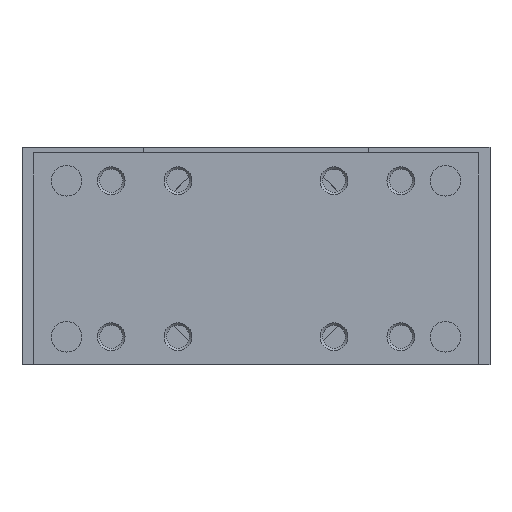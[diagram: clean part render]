
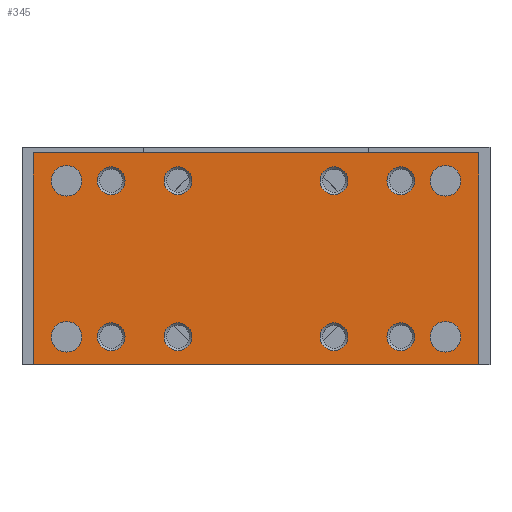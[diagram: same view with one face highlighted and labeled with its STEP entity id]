
A CAD part, left-side view. The second image highlights one B-rep face of the part: STEP entity #345.
In plain terms, the highlighted planar face has unit normal (-1, 0, 0).
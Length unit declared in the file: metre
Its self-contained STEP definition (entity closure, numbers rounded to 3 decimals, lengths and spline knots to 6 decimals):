
#345 = ADVANCED_FACE( '', ( #863, #864, #865, #866, #867, #868, #869, #870, #871, #872, #873, #874, #875 ), #876, .T. );
#863 = FACE_BOUND( '', #1609, .T. );
#864 = FACE_BOUND( '', #1610, .T. );
#865 = FACE_BOUND( '', #1611, .T. );
#866 = FACE_BOUND( '', #1612, .T. );
#867 = FACE_BOUND( '', #1613, .T. );
#868 = FACE_BOUND( '', #1614, .T. );
#869 = FACE_BOUND( '', #1615, .T. );
#870 = FACE_BOUND( '', #1616, .T. );
#871 = FACE_BOUND( '', #1617, .T. );
#872 = FACE_BOUND( '', #1618, .T. );
#873 = FACE_BOUND( '', #1619, .T. );
#874 = FACE_BOUND( '', #1620, .T. );
#875 = FACE_OUTER_BOUND( '', #1621, .T. );
#876 = PLANE( '', #1622 );
#1609 = EDGE_LOOP( '', ( #2551 ) );
#1610 = EDGE_LOOP( '', ( #2552 ) );
#1611 = EDGE_LOOP( '', ( #2553 ) );
#1612 = EDGE_LOOP( '', ( #2554 ) );
#1613 = EDGE_LOOP( '', ( #2555 ) );
#1614 = EDGE_LOOP( '', ( #2556 ) );
#1615 = EDGE_LOOP( '', ( #2557 ) );
#1616 = EDGE_LOOP( '', ( #2558 ) );
#1617 = EDGE_LOOP( '', ( #2559 ) );
#1618 = EDGE_LOOP( '', ( #2560 ) );
#1619 = EDGE_LOOP( '', ( #2561 ) );
#1620 = EDGE_LOOP( '', ( #2562 ) );
#1621 = EDGE_LOOP( '', ( #2563, #2564, #2565, #2566 ) );
#1622 = AXIS2_PLACEMENT_3D( '', #2567, #2568, #2569 );
#2551 = ORIENTED_EDGE( '', *, *, #3588, .F. );
#2552 = ORIENTED_EDGE( '', *, *, #3589, .F. );
#2553 = ORIENTED_EDGE( '', *, *, #3590, .F. );
#2554 = ORIENTED_EDGE( '', *, *, #3591, .F. );
#2555 = ORIENTED_EDGE( '', *, *, #3592, .T. );
#2556 = ORIENTED_EDGE( '', *, *, #3355, .F. );
#2557 = ORIENTED_EDGE( '', *, *, #3593, .F. );
#2558 = ORIENTED_EDGE( '', *, *, #3594, .T. );
#2559 = ORIENTED_EDGE( '', *, *, #3595, .T. );
#2560 = ORIENTED_EDGE( '', *, *, #3551, .F. );
#2561 = ORIENTED_EDGE( '', *, *, #3596, .F. );
#2562 = ORIENTED_EDGE( '', *, *, #3370, .T. );
#2563 = ORIENTED_EDGE( '', *, *, #3597, .T. );
#2564 = ORIENTED_EDGE( '', *, *, #3598, .T. );
#2565 = ORIENTED_EDGE( '', *, *, #3599, .T. );
#2566 = ORIENTED_EDGE( '', *, *, #3555, .T. );
#2567 = CARTESIAN_POINT( '', ( -0.069, -0.04, -0.000567 ) );
#2568 = DIRECTION( '', ( -1., 0., 0. ) );
#2569 = DIRECTION( '', ( 0., 0., 1. ) );
#3355 = EDGE_CURVE( '', #3821, #3821, #3822, .T. );
#3370 = EDGE_CURVE( '', #3844, #3844, #3845, .T. );
#3551 = EDGE_CURVE( '', #4136, #4136, #4137, .T. );
#3555 = EDGE_CURVE( '', #4143, #4141, #4144, .T. );
#3588 = EDGE_CURVE( '', #4193, #4193, #4194, .T. );
#3589 = EDGE_CURVE( '', #4195, #4195, #4196, .T. );
#3590 = EDGE_CURVE( '', #4197, #4197, #4198, .T. );
#3591 = EDGE_CURVE( '', #4199, #4199, #4200, .T. );
#3592 = EDGE_CURVE( '', #4201, #4201, #4202, .T. );
#3593 = EDGE_CURVE( '', #4203, #4203, #4204, .T. );
#3594 = EDGE_CURVE( '', #4205, #4205, #4206, .T. );
#3595 = EDGE_CURVE( '', #4207, #4207, #4208, .T. );
#3596 = EDGE_CURVE( '', #4209, #4209, #4210, .T. );
#3597 = EDGE_CURVE( '', #4141, #4211, #4212, .T. );
#3598 = EDGE_CURVE( '', #4211, #4213, #4214, .T. );
#3599 = EDGE_CURVE( '', #4213, #4143, #4215, .T. );
#3821 = VERTEX_POINT( '', #4505 );
#3822 = CIRCLE( '', #4506, 0.0025 );
#3844 = VERTEX_POINT( '', #4528 );
#3845 = CIRCLE( '', #4529, 0.0025 );
#4136 = VERTEX_POINT( '', #5236 );
#4137 = CIRCLE( '', #5237, 0.0025 );
#4141 = VERTEX_POINT( '', #5242 );
#4143 = VERTEX_POINT( '', #5245 );
#4144 = LINE( '', #5246, #5247 );
#4193 = VERTEX_POINT( '', #5340 );
#4194 = CIRCLE( '', #5341, 0.00275 );
#4195 = VERTEX_POINT( '', #5342 );
#4196 = CIRCLE( '', #5343, 0.00275 );
#4197 = VERTEX_POINT( '', #5344 );
#4198 = CIRCLE( '', #5345, 0.00275 );
#4199 = VERTEX_POINT( '', #5346 );
#4200 = CIRCLE( '', #5347, 0.00275 );
#4201 = VERTEX_POINT( '', #5348 );
#4202 = CIRCLE( '', #5349, 0.0025 );
#4203 = VERTEX_POINT( '', #5350 );
#4204 = CIRCLE( '', #5351, 0.0025 );
#4205 = VERTEX_POINT( '', #5352 );
#4206 = CIRCLE( '', #5353, 0.0025 );
#4207 = VERTEX_POINT( '', #5354 );
#4208 = CIRCLE( '', #5355, 0.0025 );
#4209 = VERTEX_POINT( '', #5356 );
#4210 = CIRCLE( '', #5357, 0.0025 );
#4211 = VERTEX_POINT( '', #5358 );
#4212 = LINE( '', #5359, #5360 );
#4213 = VERTEX_POINT( '', #5361 );
#4214 = LINE( '', #5362, #5363 );
#4215 = LINE( '', #5364, #5365 );
#4505 = CARTESIAN_POINT( '', ( -0.069, 0.0285, -0.033567 ) );
#4506 = AXIS2_PLACEMENT_3D( '', #6105, #6106, #6107 );
#4528 = CARTESIAN_POINT( '', ( -0.069, 0.0165, -0.005567 ) );
#4529 = AXIS2_PLACEMENT_3D( '', #6132, #6133, #6134 );
#5236 = CARTESIAN_POINT( '', ( -0.069, 0.0165, -0.033567 ) );
#5237 = AXIS2_PLACEMENT_3D( '', #6401, #6402, #6403 );
#5242 = CARTESIAN_POINT( '', ( -0.069, -0.04, -0.038567 ) );
#5245 = CARTESIAN_POINT( '', ( -0.069, 0.04, -0.038567 ) );
#5246 = CARTESIAN_POINT( '', ( -0.069, 0.04, -0.038567 ) );
#5247 = VECTOR( '', #6406, 1. );
#5340 = CARTESIAN_POINT( '', ( -0.069, -0.034, -0.030817 ) );
#5341 = AXIS2_PLACEMENT_3D( '', #6448, #6449, #6450 );
#5342 = CARTESIAN_POINT( '', ( -0.069, 0.034, -0.030817 ) );
#5343 = AXIS2_PLACEMENT_3D( '', #6451, #6452, #6453 );
#5344 = CARTESIAN_POINT( '', ( -0.069, -0.034, -0.002817 ) );
#5345 = AXIS2_PLACEMENT_3D( '', #6454, #6455, #6456 );
#5346 = CARTESIAN_POINT( '', ( -0.069, 0.034, -0.002817 ) );
#5347 = AXIS2_PLACEMENT_3D( '', #6457, #6458, #6459 );
#5348 = CARTESIAN_POINT( '', ( -0.069, -0.0285, -0.033567 ) );
#5349 = AXIS2_PLACEMENT_3D( '', #6460, #6461, #6462 );
#5350 = CARTESIAN_POINT( '', ( -0.069, -0.0285, -0.005567 ) );
#5351 = AXIS2_PLACEMENT_3D( '', #6463, #6464, #6465 );
#5352 = CARTESIAN_POINT( '', ( -0.069, 0.0285, -0.005567 ) );
#5353 = AXIS2_PLACEMENT_3D( '', #6466, #6467, #6468 );
#5354 = CARTESIAN_POINT( '', ( -0.069, -0.0165, -0.033567 ) );
#5355 = AXIS2_PLACEMENT_3D( '', #6469, #6470, #6471 );
#5356 = CARTESIAN_POINT( '', ( -0.069, -0.0165, -0.005567 ) );
#5357 = AXIS2_PLACEMENT_3D( '', #6472, #6473, #6474 );
#5358 = CARTESIAN_POINT( '', ( -0.069, -0.04, -0.000567 ) );
#5359 = CARTESIAN_POINT( '', ( -0.069, -0.04, -0.038567 ) );
#5360 = VECTOR( '', #6475, 1. );
#5361 = CARTESIAN_POINT( '', ( -0.069, 0.04, -0.000567 ) );
#5362 = CARTESIAN_POINT( '', ( -0.069, -0.04, -0.000567 ) );
#5363 = VECTOR( '', #6476, 1. );
#5364 = CARTESIAN_POINT( '', ( -0.069, 0.04, -0.000567 ) );
#5365 = VECTOR( '', #6477, 1. );
#6105 = CARTESIAN_POINT( '', ( -0.069, 0.026, -0.033567 ) );
#6106 = DIRECTION( '', ( -1., 0., 0. ) );
#6107 = DIRECTION( '', ( 0., 1., 0. ) );
#6132 = CARTESIAN_POINT( '', ( -0.069, 0.014, -0.005567 ) );
#6133 = DIRECTION( '', ( 1., 0., 0. ) );
#6134 = DIRECTION( '', ( 0., 1., 0. ) );
#6401 = CARTESIAN_POINT( '', ( -0.069, 0.014, -0.033567 ) );
#6402 = DIRECTION( '', ( -1., 0., 0. ) );
#6403 = DIRECTION( '', ( 0., 1., 0. ) );
#6406 = DIRECTION( '', ( 0., -1., 0. ) );
#6448 = CARTESIAN_POINT( '', ( -0.069, -0.034, -0.033567 ) );
#6449 = DIRECTION( '', ( -1., 0., 0. ) );
#6450 = DIRECTION( '', ( 0., 0., 1. ) );
#6451 = CARTESIAN_POINT( '', ( -0.069, 0.034, -0.033567 ) );
#6452 = DIRECTION( '', ( -1., 0., 0. ) );
#6453 = DIRECTION( '', ( 0., 0., 1. ) );
#6454 = CARTESIAN_POINT( '', ( -0.069, -0.034, -0.005567 ) );
#6455 = DIRECTION( '', ( -1., 0., 0. ) );
#6456 = DIRECTION( '', ( 0., 0., 1. ) );
#6457 = CARTESIAN_POINT( '', ( -0.069, 0.034, -0.005567 ) );
#6458 = DIRECTION( '', ( -1., 0., 0. ) );
#6459 = DIRECTION( '', ( 0., 0., 1. ) );
#6460 = CARTESIAN_POINT( '', ( -0.069, -0.026, -0.033567 ) );
#6461 = DIRECTION( '', ( 1., 0., 0. ) );
#6462 = DIRECTION( '', ( 0., -1., 0. ) );
#6463 = CARTESIAN_POINT( '', ( -0.069, -0.026, -0.005567 ) );
#6464 = DIRECTION( '', ( -1., 0., 0. ) );
#6465 = DIRECTION( '', ( 0., -1., 0. ) );
#6466 = CARTESIAN_POINT( '', ( -0.069, 0.026, -0.005567 ) );
#6467 = DIRECTION( '', ( 1., 0., 0. ) );
#6468 = DIRECTION( '', ( 0., 1., 0. ) );
#6469 = CARTESIAN_POINT( '', ( -0.069, -0.014, -0.033567 ) );
#6470 = DIRECTION( '', ( 1., 0., 0. ) );
#6471 = DIRECTION( '', ( 0., -1., 0. ) );
#6472 = CARTESIAN_POINT( '', ( -0.069, -0.014, -0.005567 ) );
#6473 = DIRECTION( '', ( -1., 0., 0. ) );
#6474 = DIRECTION( '', ( 0., -1., 0. ) );
#6475 = DIRECTION( '', ( 0., 0., 1. ) );
#6476 = DIRECTION( '', ( 0., 1., 0. ) );
#6477 = DIRECTION( '', ( 0., 0., -1. ) );
